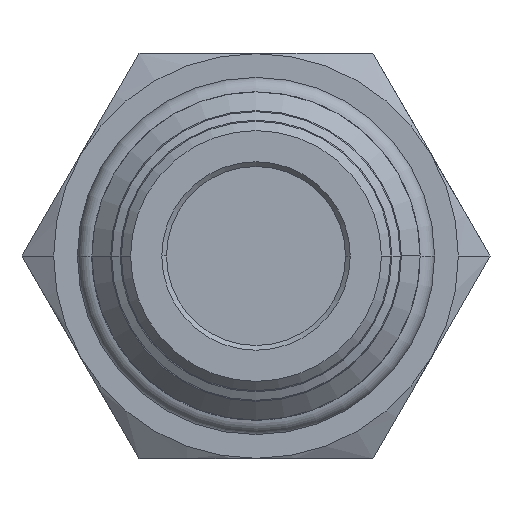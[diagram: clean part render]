
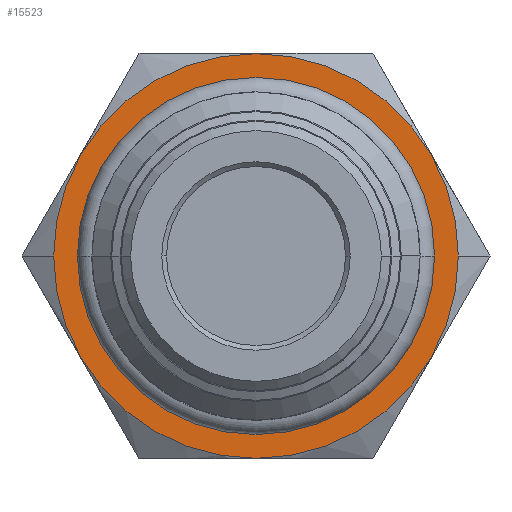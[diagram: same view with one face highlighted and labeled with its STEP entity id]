
A CAD part, front view. The second image highlights one B-rep face of the part: STEP entity #15523.
In plain terms, the highlighted planar face has unit normal (0, -1, 0).
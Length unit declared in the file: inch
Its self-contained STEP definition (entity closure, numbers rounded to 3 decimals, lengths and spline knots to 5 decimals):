
#1143=CARTESIAN_POINT('',(0.,0.,0.));
#1144=DIRECTION('',(0.,1.,0.));
#1145=DIRECTION('',(1.,0.,0.));
#1146=AXIS2_PLACEMENT_3D('',#1143,#1144,#1145);
#1151=CARTESIAN_POINT('',(0.,0.,0.));
#1152=DIRECTION('',(0.,-1.,0.));
#1153=DIRECTION('',(1.,0.,0.));
#1154=AXIS2_PLACEMENT_3D('',#1151,#1152,#1153);
#1159=CARTESIAN_POINT('',(0.,0.,0.));
#1160=DIRECTION('',(0.,-1.,0.));
#1161=DIRECTION('',(1.,0.,0.));
#1162=AXIS2_PLACEMENT_3D('',#1159,#1160,#1161);
#1167=CARTESIAN_POINT('',(0.,0.,0.));
#1168=DIRECTION('',(0.,-1.,0.));
#1169=DIRECTION('',(-1.,0.,0.));
#1170=AXIS2_PLACEMENT_3D('',#1167,#1168,#1169);
#14715=CARTESIAN_POINT('',(0.655,0.,0.));
#14717=VERTEX_POINT('',#14715);
#14719=CARTESIAN_POINT('',(-0.655,0.,0.));
#14721=VERTEX_POINT('',#14719);
#15063=CARTESIAN_POINT('',(0.5249,0.,0.));
#15064=CARTESIAN_POINT('',(-0.5249,0.,0.));
#15065=VERTEX_POINT('',#15063);
#15066=VERTEX_POINT('',#15064);
#15508=CARTESIAN_POINT('',(0.,0.,0.));
#15509=DIRECTION('',(0.,1.,0.));
#15510=DIRECTION('',(1.,0.,0.));
#15511=AXIS2_PLACEMENT_3D('',#15508,#15509,#15510);
#15512=PLANE('',#15511);
#15513=ORIENTED_EDGE('',*,*,#15496,.T.);
#15514=ORIENTED_EDGE('',*,*,#15473,.F.);
#15515=EDGE_LOOP('',(#15513,#15514));
#15516=FACE_OUTER_BOUND('',#15515,.F.);
#15518=ORIENTED_EDGE('',*,*,#15517,.T.);
#15520=ORIENTED_EDGE('',*,*,#15519,.T.);
#15521=EDGE_LOOP('',(#15518,#15520));
#15522=FACE_BOUND('',#15521,.F.);
#1147=CIRCLE('',#1146,0.655);
#1155=CIRCLE('',#1154,0.655);
#1163=CIRCLE('',#1162,0.5249);
#1171=CIRCLE('',#1170,0.5249);
#15473=EDGE_CURVE('',#14717,#14721,#1155,.T.);
#15496=EDGE_CURVE('',#14717,#14721,#1147,.T.);
#15517=EDGE_CURVE('',#15065,#15066,#1163,.T.);
#15519=EDGE_CURVE('',#15066,#15065,#1171,.T.);
#15523=ADVANCED_FACE('',(#15516,#15522),#15512,.F.);
